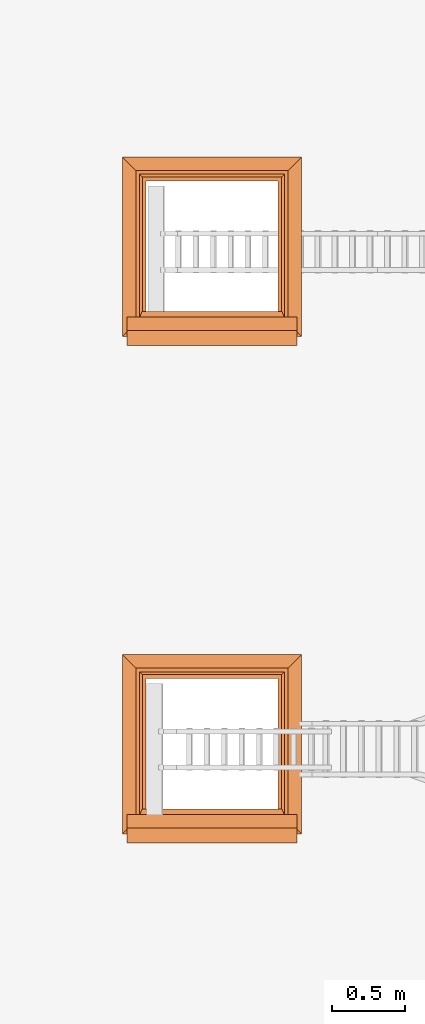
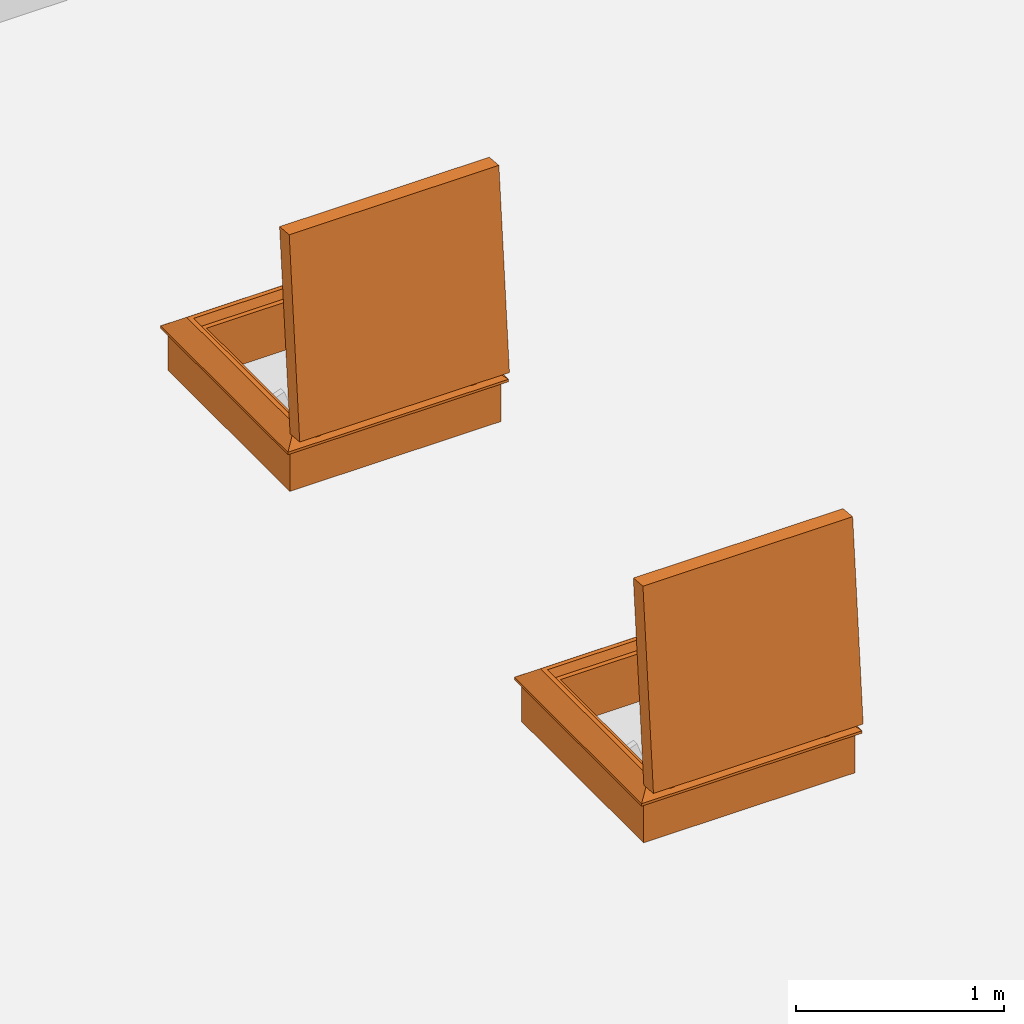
# One storey, part 27 of 28: 2 proxies.
"""IFC2X3 building model written with IfcOpenShell, lengths in millimetres."""

from ifc_helpers import new_model, entity, si_unit, converted_unit, derived_unit, direction, frame, origin, place, context, subcontext, project, spatial, faceted_brep, source, transform, mapped, type_object, type_shapes, element, save


model = new_model("IFC2X3")

# Units and contexts
model_context = context("Model", 3, precision=0.01, world=origin(), true_north=direction((6.12303176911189e-17, 1.0)))
body_context = subcontext(model_context, "Body", "Model", "MODEL_VIEW")
ifc_project = project(units=[si_unit("LENGTHUNIT", "METRE", prefix="MILLI"), si_unit("AREAUNIT", "SQUARE_METRE"), si_unit("VOLUMEUNIT", "CUBIC_METRE"), converted_unit("PLANEANGLEUNIT", "DEGREE", entity("IfcRatioMeasure", 0.0174532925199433), si_unit("PLANEANGLEUNIT", "RADIAN"), dimensions=[0, 0, 0, 0, 0, 0, 0]), si_unit("MASSUNIT", "GRAM", prefix="KILO"), derived_unit("MASSDENSITYUNIT", [(si_unit("MASSUNIT", "GRAM", prefix="KILO"), 1), (si_unit("LENGTHUNIT", "METRE"), -3)]), si_unit("TIMEUNIT", "SECOND"), si_unit("FREQUENCYUNIT", "HERTZ"), si_unit("THERMODYNAMICTEMPERATUREUNIT", "DEGREE_CELSIUS"), derived_unit("THERMALTRANSMITTANCEUNIT", [(si_unit("MASSUNIT", "GRAM", prefix="KILO"), 1), (si_unit("THERMODYNAMICTEMPERATUREUNIT", "KELVIN"), -1), (si_unit("TIMEUNIT", "SECOND"), -3)]), derived_unit("VOLUMETRICFLOWRATEUNIT", [(si_unit("LENGTHUNIT", "METRE"), 3), (si_unit("TIMEUNIT", "SECOND"), -1)]), si_unit("ELECTRICCURRENTUNIT", "AMPERE"), si_unit("ELECTRICVOLTAGEUNIT", "VOLT"), si_unit("POWERUNIT", "WATT"), si_unit("FORCEUNIT", "NEWTON", prefix="KILO"), si_unit("ILLUMINANCEUNIT", "LUX"), si_unit("LUMINOUSFLUXUNIT", "LUMEN"), si_unit("LUMINOUSINTENSITYUNIT", "CANDELA"), derived_unit("USERDEFINED", [(si_unit("MASSUNIT", "GRAM", prefix="KILO"), -1), (si_unit("LENGTHUNIT", "METRE"), -2), (si_unit("TIMEUNIT", "SECOND"), 3), (si_unit("LUMINOUSFLUXUNIT", "LUMEN"), 1)]), derived_unit("LINEARVELOCITYUNIT", [(si_unit("LENGTHUNIT", "METRE"), 1), (si_unit("TIMEUNIT", "SECOND"), -1)]), si_unit("PRESSUREUNIT", "PASCAL"), derived_unit("USERDEFINED", [(si_unit("LENGTHUNIT", "METRE"), -2), (si_unit("MASSUNIT", "GRAM", prefix="KILO"), 1), (si_unit("TIMEUNIT", "SECOND"), -2)])], contexts=[model_context])

# Site, building, storey
site_placement = place(None, origin())
site = spatial("IfcSite", under=ifc_project, at=site_placement, Name="Default", CompositionType="ELEMENT")
building_placement = place(site_placement, origin())
building = spatial("IfcBuilding", under=site, at=building_placement, CompositionType="ELEMENT")
storey_placement = place(building_placement, frame((0.0, 0.0, 4000.0)))
storey = spatial("IfcBuildingStorey", under=building, at=storey_placement, Name="Level 2", CompositionType="ELEMENT", Elevation=4000.0)

# Proxies
building_element_proxy_type_1 = type_object("IfcBuildingElementProxyType", Name="900 x 900 2part Stair", PredefinedType="NOTDEFINED")
shared_shape_1 = source(origin(), body_context, "Body", "Brep", [
    faceted_brep([(-1025.81180060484, -352.9006607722, 333.094802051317), (-1025.81180060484, -352.274840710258, 333.878753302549), (-1025.81180060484, -351.473721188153, 334.482440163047), (-1025.81180060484, -350.547639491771, 334.867930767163), (-1025.81180060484, -349.554784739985, 335.011003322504), (-1025.81180060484, -348.557541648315, 334.902668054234), (-1025.81180060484, -347.618570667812, 334.549732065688), (-1025.81180060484, -346.796870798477, 333.974371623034), (-1025.81180060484, -346.1440724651, 333.212738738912), (-1025.81180060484, -345.701193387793, 332.31268960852), (-1025.81180060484, -345.496061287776, 331.330777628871), (-1025.81180060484, -345.541565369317, 330.328699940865), (-1025.81180060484, -345.834846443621, 329.369420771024), (-1025.81180060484, -346.357476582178, 328.513215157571), (-1025.81180060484, -347.076617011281, 327.813881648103), (-1025.81180060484, -347.442865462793, 324.584309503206), (-1025.81180060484, -344.763632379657, 322.744205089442), (-1025.81180060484, -309.427027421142, 309.700701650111), (-1025.81180060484, -356.910862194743, 271.713633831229), (-1025.81180060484, -365.245617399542, 282.132077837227), (-1025.81180060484, -366.655242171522, 284.948025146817), (-1025.81180060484, -366.7901943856, 288.094195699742), (-1025.81180060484, -353.311858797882, 332.179844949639), (-998.815024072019, -365.245617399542, 282.132077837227), (-998.815024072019, -366.655242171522, 284.948025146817), (-998.815024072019, -366.7901943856, 288.094195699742), (-998.815024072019, -353.311858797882, 332.179844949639), (-998.815024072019, -352.9006607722, 333.094802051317), (-998.815024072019, -352.274840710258, 333.878753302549), (-998.815024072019, -351.473721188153, 334.482440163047), (-998.815024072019, -349.554784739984, 335.011003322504), (-998.815024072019, -348.557541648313, 334.902668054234), (-998.815024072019, -350.54763949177, 334.867930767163), (-998.815024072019, -347.618570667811, 334.549732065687), (-998.815024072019, -346.796870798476, 333.974371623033), (-998.815024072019, -345.701193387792, 332.312689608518), (-998.815024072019, -346.1440724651, 333.21273873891), (-998.815024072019, -345.496061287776, 331.330777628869), (-998.815024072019, -345.834846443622, 329.369420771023), (-998.815024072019, -346.357476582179, 328.51321515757), (-998.815024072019, -345.541565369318, 330.328699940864), (-998.815024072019, -347.076617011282, 327.813881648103), (-998.815024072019, -347.442865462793, 324.584309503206), (-998.815024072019, -344.763632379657, 322.744205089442), (-998.815024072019, -309.427027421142, 309.700701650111), (-998.815024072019, -356.910862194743, 271.713633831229)], [[[0, 1, 2, 3, 4, 5, 6, 7, 8, 9, 10, 11, 12, 13, 14, 15, 16, 17, 18, 19, 20, 21, 22]], [[19, 23, 24, 20]], [[24, 25, 21, 20]], [[22, 21, 25, 26]], [[1, 0, 27, 28]], [[27, 0, 22, 26]], [[29, 2, 1, 28]], [[30, 31, 5, 4]], [[4, 3, 32, 30]], [[32, 3, 2, 29]], [[31, 33, 6, 5]], [[33, 34, 7, 6]], [[35, 9, 8, 36]], [[36, 8, 7, 34]], [[10, 9, 35, 37]], [[13, 12, 38, 39]], [[12, 11, 40, 38]], [[40, 11, 10, 37]], [[41, 14, 13, 39]], [[41, 42, 15, 14]], [[43, 16, 15, 42]], [[17, 16, 43, 44]], [[18, 17, 44, 45]], [[19, 18, 45, 23]], [[45, 44, 43, 42, 41, 39, 38, 40, 37, 35, 36, 34, 33, 31, 30, 32, 29, 28, 27, 26, 25, 24, 23]]]),
    faceted_brep([(-165.338675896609, -365.245617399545, 282.132077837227), (-165.338675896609, -356.910862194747, 271.713633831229), (-134.95889484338, -356.910862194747, 271.713633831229), (-134.95889484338, -365.245617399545, 282.132077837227), (-165.338675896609, -309.427027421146, 309.700701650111), (-134.958894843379, -309.427027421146, 309.700701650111), (-165.338675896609, -344.763632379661, 322.744205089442), (-134.95889484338, -344.763632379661, 322.744205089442), (-134.95889484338, -347.076617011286, 327.813881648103), (-134.95889484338, -347.442865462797, 324.584309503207), (-165.338675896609, -347.442865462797, 324.584309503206), (-165.338675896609, -347.076617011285, 327.813881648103), (-134.95889484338, -352.900660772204, 333.094802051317), (-165.338675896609, -352.900660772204, 333.094802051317), (-165.338675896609, -353.311858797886, 332.179844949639), (-134.95889484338, -353.311858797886, 332.179844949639), (-165.338675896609, -352.274840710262, 333.878753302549), (-134.95889484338, -352.274840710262, 333.878753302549), (-134.95889484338, -351.473721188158, 334.482440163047), (-165.338675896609, -351.473721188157, 334.482440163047), (-165.338675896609, -349.554784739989, 335.011003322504), (-165.338675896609, -350.547639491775, 334.867930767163), (-134.95889484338, -350.547639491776, 334.867930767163), (-134.95889484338, -349.554784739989, 335.011003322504), (-134.95889484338, -348.557541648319, 334.902668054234), (-165.338675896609, -348.557541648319, 334.902668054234), (-134.95889484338, -347.618570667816, 334.549732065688), (-165.338675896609, -347.618570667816, 334.549732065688), (-134.95889484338, -346.796870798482, 333.974371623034), (-165.338675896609, -346.796870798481, 333.974371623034), (-134.95889484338, -346.144072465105, 333.212738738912), (-165.338675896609, -346.144072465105, 333.212738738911), (-165.338675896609, -345.701193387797, 332.31268960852), (-134.95889484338, -345.701193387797, 332.31268960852), (-134.95889484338, -345.49606128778, 331.330777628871), (-165.338675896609, -345.49606128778, 331.330777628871), (-165.338675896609, -345.834846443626, 329.369420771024), (-165.338675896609, -345.541565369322, 330.328699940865), (-134.95889484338, -345.541565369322, 330.328699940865), (-134.95889484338, -345.834846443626, 329.369420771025), (-134.95889484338, -346.357476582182, 328.513215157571), (-165.338675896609, -346.357476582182, 328.513215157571), (-165.338675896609, -366.790194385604, 288.094195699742), (-134.95889484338, -366.790194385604, 288.094195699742), (-134.95889484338, -366.655242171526, 284.948025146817), (-165.338675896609, -366.655242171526, 284.948025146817)], [[[0, 1, 2, 3]], [[1, 4, 5, 2]], [[4, 6, 7, 5]], [[8, 9, 10, 11]], [[7, 6, 10, 9]], [[12, 13, 14, 15]], [[16, 13, 12, 17]], [[17, 18, 19, 16]], [[20, 21, 22, 23]], [[23, 24, 25, 20]], [[18, 22, 21, 19]], [[24, 26, 27, 25]], [[26, 28, 29, 27]], [[30, 31, 29, 28]], [[32, 31, 30, 33]], [[33, 34, 35, 32]], [[36, 37, 38, 39]], [[39, 40, 41, 36]], [[34, 38, 37, 35]], [[40, 8, 11, 41]], [[14, 42, 43, 15]], [[0, 3, 44, 45]], [[44, 43, 42, 45]], [[5, 7, 9, 8, 40, 39, 38, 34, 33, 30, 28, 26, 24, 23, 22, 18, 17, 12, 15, 43, 44, 3, 2]], [[36, 41, 11, 10, 6, 4, 1, 0, 45, 42, 14, 13, 16, 19, 21, 20, 25, 27, 29, 31, 32, 35, 37]]]),
    faceted_brep([(-61.2697623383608, 753.447095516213, 328.0), (30.7302376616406, 845.447095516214, 254.4), (-1193.26976233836, 845.447095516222, 254.4), (-1101.26976233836, 753.44709551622, 328.0), (-105.269762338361, 709.447095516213, 282.0), (-85.7439207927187, 728.972937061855, 328.0), (-1076.795603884, 728.972937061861, 328.0), (-1057.26976233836, 709.447095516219, 282.0), (-131.26976233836, 683.447095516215, 0.0), (-131.26976233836, 683.447095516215, 282.0), (-1031.26976233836, 683.447095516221, 282.0), (-1031.26976233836, 683.447095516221, 0.0), (4.73023766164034, 819.447095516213, 240.0), (4.73023766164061, 819.447095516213, 0.0), (-1167.26976233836, 819.447095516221, 0.0), (-1167.26976233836, 819.44709551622, 240.0), (30.7302376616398, 845.447095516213, 240.0), (-1193.26976233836, 845.447095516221, 240.0), (-1193.26976233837, -378.552904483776, 254.4), (-1101.26976233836, -286.552904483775, 328.0), (-1076.79560388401, -262.078746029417, 328.0), (-1057.26976233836, -242.552904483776, 282.0), (-1031.26976233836, -216.552904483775, 282.0), (-1031.26976233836, -216.552904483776, 0.0), (-1167.26976233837, -352.552904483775, 0.0), (-1167.26976233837, -352.552904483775, 240.0), (-1193.26976233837, -378.552904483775, 240.0), (30.7302376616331, -378.552904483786, 254.4), (-61.2697623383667, -286.552904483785, 328.0), (-85.7439207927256, -262.078746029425, 328.0), (-105.269762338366, -242.552904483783, 282.0), (-131.269762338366, -216.552904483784, 282.0), (-131.269762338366, -216.552904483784, 0.0), (4.73023766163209, -352.552904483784, 0.0), (4.73023766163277, -352.552904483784, 240.0), (30.730237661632, -378.552904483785, 240.0)], [[[0, 1, 2, 3]], [[4, 5, 6, 7]], [[8, 9, 10, 11]], [[12, 13, 14, 15]], [[1, 16, 17, 2]], [[3, 2, 18, 19]], [[7, 6, 20, 21]], [[11, 10, 22, 23]], [[15, 14, 24, 25]], [[2, 17, 26, 18]], [[19, 18, 27, 28]], [[21, 20, 29, 30]], [[23, 22, 31, 32]], [[25, 24, 33, 34]], [[18, 26, 35, 27]], [[28, 27, 1, 0]], [[3, 19, 28, 0], [5, 29, 20, 6]], [[30, 29, 5, 4]], [[7, 21, 30, 4], [9, 31, 22, 10]], [[32, 31, 9, 8]], [[11, 23, 32, 8], [13, 33, 24, 14]], [[34, 33, 13, 12]], [[15, 25, 34, 12], [16, 35, 26, 17]], [[27, 35, 16, 1]]], outer=[[True], [True], [True], [True], [True], [True], [True], [True], [True], [True], [True], [True], [True], [True], [True], [True], [True, False], [True], [True, False], [True], [False, True], [True], [False, True], [True]]),
    faceted_brep([(-1033.97259076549, -350.291018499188, 1367.58602311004), (-1033.97259076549, -428.81834271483, 470.014600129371), (-128.272590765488, -428.81834271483, 470.014600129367), (-128.272590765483, -350.291018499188, 1367.58602311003), (-1033.97259076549, -211.421477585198, 1355.43651257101), (-128.272590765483, -211.421477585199, 1355.43651257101), (-128.272590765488, -289.94880180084, 457.865089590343), (-1033.97259076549, -289.94880180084, 457.865089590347)], [[[0, 1, 2, 3]], [[4, 5, 6, 7]], [[1, 0, 4, 7]], [[2, 1, 7, 6]], [[3, 2, 6, 5]], [[0, 3, 5, 4]]]),
    faceted_brep([(-128.272590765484, -211.421477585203, 1355.43651257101), (-128.272590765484, -350.291018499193, 1367.58602311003), (-1033.97259076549, -350.291018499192, 1367.58602311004), (-1033.97259076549, -211.421477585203, 1355.43651257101), (-85.2725907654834, -253.897214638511, 1402.31691105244), (-102.872590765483, -209.207721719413, 1380.73985790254), (-1059.37259076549, -209.207721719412, 1380.73985790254), (-1076.97259076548, -253.897214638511, 1402.31691105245), (0.727409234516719, -339.047927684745, 1496.09513916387), (0.727409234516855, -246.401820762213, 1487.98965508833), (-1162.97259076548, -246.401820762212, 1487.98965508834), (-1162.97259076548, -339.047927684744, 1496.09513916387), (-1033.97259076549, -428.818342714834, 470.014600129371), (-1033.97259076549, -289.948801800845, 457.865089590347), (-1059.37259076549, -292.162557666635, 432.561744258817), (-1076.97259076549, -339.919932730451, 419.072744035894), (-1162.97259076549, -347.41532660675, 333.400000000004), (-1162.97259076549, -440.061433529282, 341.505484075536), (-128.27259076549, -428.818342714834, 470.014600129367), (-128.272590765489, -289.948801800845, 457.865089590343), (-102.872590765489, -292.162557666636, 432.561744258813), (-85.2725907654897, -339.919932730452, 419.072744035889), (0.727409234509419, -347.41532660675, 333.399999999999), (0.727409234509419, -440.061433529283, 341.505484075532)], [[[0, 1, 2, 3]], [[4, 5, 6, 7]], [[8, 9, 10, 11]], [[3, 2, 12, 13]], [[7, 6, 14, 15]], [[11, 10, 16, 17]], [[13, 12, 18, 19]], [[15, 14, 20, 21]], [[17, 16, 22, 23]], [[19, 18, 1, 0]], [[3, 13, 19, 0], [5, 20, 14, 6]], [[21, 20, 5, 4]], [[7, 15, 21, 4], [9, 22, 16, 10]], [[23, 22, 9, 8]], [[1, 18, 12, 2], [11, 17, 23, 8]]], outer=[[True], [True], [True], [True], [True], [True], [True], [True], [True], [True], [False, True], [True], [False, True], [True], [False, True]]),
])
type_shapes(building_element_proxy_type_1, [shared_shape_1])
proxy_1_placement = place(storey_placement, frame((8335.61306223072, 5640.33582063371, 400.0)))
element("IfcBuildingElementProxy", 1, at=proxy_1_placement, inside=storey, type_object=building_element_proxy_type_1, Name="2_Topaccess_dakluik_900x900_Staka:900 x 900 2part Stair", ObjectType="900 x 900 2part Stair", context=body_context, shape_type="MappedRepresentation", body=[
    mapped(shared_shape_1, transform((0.0, 0.0, 0.0), scale=1.0)),
])
building_element_proxy_type_2 = type_object("IfcBuildingElementProxyType", Name="900 x 900 3part Stair", PredefinedType="NOTDEFINED")
shared_shape_2 = source(origin(), body_context, "Body", "Brep", [
    faceted_brep([(-1025.81180060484, -352.9006607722, 333.094802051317), (-1025.81180060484, -352.274840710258, 333.878753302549), (-1025.81180060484, -351.473721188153, 334.482440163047), (-1025.81180060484, -350.547639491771, 334.867930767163), (-1025.81180060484, -349.554784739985, 335.011003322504), (-1025.81180060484, -348.557541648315, 334.902668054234), (-1025.81180060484, -347.618570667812, 334.549732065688), (-1025.81180060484, -346.796870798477, 333.974371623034), (-1025.81180060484, -346.1440724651, 333.212738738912), (-1025.81180060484, -345.701193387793, 332.31268960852), (-1025.81180060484, -345.496061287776, 331.330777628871), (-1025.81180060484, -345.541565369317, 330.328699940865), (-1025.81180060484, -345.834846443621, 329.369420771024), (-1025.81180060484, -346.357476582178, 328.513215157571), (-1025.81180060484, -347.076617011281, 327.813881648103), (-1025.81180060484, -347.442865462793, 324.584309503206), (-1025.81180060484, -344.763632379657, 322.744205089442), (-1025.81180060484, -309.427027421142, 309.700701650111), (-1025.81180060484, -356.910862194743, 271.713633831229), (-1025.81180060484, -365.245617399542, 282.132077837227), (-1025.81180060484, -366.655242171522, 284.948025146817), (-1025.81180060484, -366.7901943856, 288.094195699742), (-1025.81180060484, -353.311858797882, 332.179844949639), (-998.815024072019, -365.245617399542, 282.132077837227), (-998.815024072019, -366.655242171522, 284.948025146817), (-998.815024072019, -366.7901943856, 288.094195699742), (-998.815024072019, -353.311858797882, 332.179844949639), (-998.815024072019, -352.9006607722, 333.094802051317), (-998.815024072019, -352.274840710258, 333.878753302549), (-998.815024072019, -351.473721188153, 334.482440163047), (-998.815024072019, -349.554784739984, 335.011003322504), (-998.815024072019, -348.557541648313, 334.902668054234), (-998.815024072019, -350.54763949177, 334.867930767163), (-998.815024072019, -347.618570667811, 334.549732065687), (-998.815024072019, -346.796870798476, 333.974371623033), (-998.815024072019, -345.701193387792, 332.312689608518), (-998.815024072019, -346.1440724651, 333.21273873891), (-998.815024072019, -345.496061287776, 331.330777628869), (-998.815024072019, -345.834846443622, 329.369420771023), (-998.815024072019, -346.357476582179, 328.51321515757), (-998.815024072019, -345.541565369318, 330.328699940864), (-998.815024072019, -347.076617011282, 327.813881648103), (-998.815024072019, -347.442865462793, 324.584309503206), (-998.815024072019, -344.763632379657, 322.744205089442), (-998.815024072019, -309.427027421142, 309.700701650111), (-998.815024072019, -356.910862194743, 271.713633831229)], [[[0, 1, 2, 3, 4, 5, 6, 7, 8, 9, 10, 11, 12, 13, 14, 15, 16, 17, 18, 19, 20, 21, 22]], [[19, 23, 24, 20]], [[24, 25, 21, 20]], [[22, 21, 25, 26]], [[1, 0, 27, 28]], [[27, 0, 22, 26]], [[29, 2, 1, 28]], [[30, 31, 5, 4]], [[4, 3, 32, 30]], [[32, 3, 2, 29]], [[31, 33, 6, 5]], [[33, 34, 7, 6]], [[35, 9, 8, 36]], [[36, 8, 7, 34]], [[10, 9, 35, 37]], [[13, 12, 38, 39]], [[12, 11, 40, 38]], [[40, 11, 10, 37]], [[41, 14, 13, 39]], [[41, 42, 15, 14]], [[43, 16, 15, 42]], [[17, 16, 43, 44]], [[18, 17, 44, 45]], [[19, 18, 45, 23]], [[45, 44, 43, 42, 41, 39, 38, 40, 37, 35, 36, 34, 33, 31, 30, 32, 29, 28, 27, 26, 25, 24, 23]]]),
    faceted_brep([(-165.338675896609, -365.245617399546, 282.132077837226), (-134.95889484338, -365.245617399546, 282.132077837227), (-134.95889484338, -366.655242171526, 284.948025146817), (-165.338675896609, -366.655242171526, 284.948025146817), (-134.95889484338, -366.790194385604, 288.094195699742), (-165.338675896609, -366.790194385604, 288.094195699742), (-165.338675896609, -353.311858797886, 332.179844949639), (-134.95889484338, -353.311858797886, 332.179844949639), (-134.95889484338, -352.900660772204, 333.094802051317), (-165.338675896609, -352.900660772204, 333.094802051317), (-165.338675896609, -352.274840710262, 333.878753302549), (-134.95889484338, -352.274840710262, 333.878753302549), (-134.95889484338, -351.473721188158, 334.482440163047), (-165.338675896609, -351.473721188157, 334.482440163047), (-165.338675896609, -349.554784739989, 335.011003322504), (-165.338675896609, -350.547639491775, 334.867930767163), (-134.95889484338, -350.547639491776, 334.867930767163), (-134.95889484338, -349.554784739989, 335.011003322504), (-134.95889484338, -348.557541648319, 334.902668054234), (-165.338675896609, -348.557541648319, 334.902668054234), (-134.95889484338, -347.618570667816, 334.549732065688), (-165.338675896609, -347.618570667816, 334.549732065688), (-134.95889484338, -346.796870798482, 333.974371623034), (-165.338675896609, -346.796870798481, 333.974371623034), (-134.95889484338, -346.144072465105, 333.212738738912), (-165.338675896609, -346.144072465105, 333.212738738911), (-165.338675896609, -345.701193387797, 332.31268960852), (-134.95889484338, -345.701193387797, 332.31268960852), (-134.95889484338, -345.49606128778, 331.330777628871), (-165.338675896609, -345.49606128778, 331.330777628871), (-165.338675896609, -345.834846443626, 329.369420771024), (-165.338675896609, -345.541565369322, 330.328699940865), (-134.95889484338, -345.541565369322, 330.328699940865), (-134.95889484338, -345.834846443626, 329.369420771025), (-134.95889484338, -346.357476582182, 328.513215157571), (-165.338675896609, -346.357476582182, 328.513215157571), (-134.95889484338, -347.076617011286, 327.813881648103), (-165.338675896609, -347.076617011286, 327.813881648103), (-134.95889484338, -347.442865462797, 324.584309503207), (-165.338675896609, -347.442865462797, 324.584309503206), (-134.95889484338, -344.763632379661, 322.744205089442), (-165.338675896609, -344.763632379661, 322.744205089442), (-165.338675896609, -309.427027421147, 309.700701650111), (-134.95889484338, -309.427027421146, 309.700701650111), (-165.338675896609, -356.910862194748, 271.713633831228), (-134.95889484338, -356.910862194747, 271.713633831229)], [[[0, 1, 2, 3]], [[2, 4, 5, 3]], [[6, 5, 4, 7]], [[8, 9, 6, 7]], [[10, 9, 8, 11]], [[11, 12, 13, 10]], [[14, 15, 16, 17]], [[17, 18, 19, 14]], [[12, 16, 15, 13]], [[18, 20, 21, 19]], [[20, 22, 23, 21]], [[24, 25, 23, 22]], [[26, 25, 24, 27]], [[27, 28, 29, 26]], [[30, 31, 32, 33]], [[33, 34, 35, 30]], [[28, 32, 31, 29]], [[34, 36, 37, 35]], [[36, 38, 39, 37]], [[40, 41, 39, 38]], [[42, 41, 40, 43]], [[44, 42, 43, 45]], [[0, 44, 45, 1]], [[43, 40, 38, 36, 34, 33, 32, 28, 27, 24, 22, 20, 18, 17, 16, 12, 11, 8, 7, 4, 2, 1, 45]], [[30, 35, 37, 39, 41, 42, 44, 0, 3, 5, 6, 9, 10, 13, 15, 14, 19, 21, 23, 25, 26, 29, 31]]]),
    faceted_brep([(-61.2697623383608, 753.447095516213, 328.0), (30.7302376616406, 845.447095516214, 254.4), (-1193.26976233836, 845.447095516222, 254.4), (-1101.26976233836, 753.44709551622, 328.0), (-105.269762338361, 709.447095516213, 282.0), (-85.7439207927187, 728.972937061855, 328.0), (-1076.795603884, 728.972937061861, 328.0), (-1057.26976233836, 709.447095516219, 282.0), (-131.26976233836, 683.447095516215, 0.0), (-131.26976233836, 683.447095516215, 282.0), (-1031.26976233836, 683.447095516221, 282.0), (-1031.26976233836, 683.447095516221, 0.0), (4.73023766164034, 819.447095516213, 240.0), (4.73023766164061, 819.447095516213, 0.0), (-1167.26976233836, 819.447095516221, 0.0), (-1167.26976233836, 819.44709551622, 240.0), (30.7302376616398, 845.447095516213, 240.0), (-1193.26976233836, 845.447095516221, 240.0), (-1193.26976233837, -378.552904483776, 254.4), (-1101.26976233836, -286.552904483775, 328.0), (-1076.79560388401, -262.078746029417, 328.0), (-1057.26976233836, -242.552904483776, 282.0), (-1031.26976233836, -216.552904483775, 282.0), (-1031.26976233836, -216.552904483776, 0.0), (-1167.26976233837, -352.552904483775, 0.0), (-1167.26976233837, -352.552904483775, 240.0), (-1193.26976233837, -378.552904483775, 240.0), (30.7302376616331, -378.552904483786, 254.4), (-61.2697623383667, -286.552904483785, 328.0), (-85.7439207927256, -262.078746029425, 328.0), (-105.269762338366, -242.552904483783, 282.0), (-131.269762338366, -216.552904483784, 282.0), (-131.269762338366, -216.552904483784, 0.0), (4.73023766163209, -352.552904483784, 0.0), (4.73023766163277, -352.552904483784, 240.0), (30.730237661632, -378.552904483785, 240.0)], [[[0, 1, 2, 3]], [[4, 5, 6, 7]], [[8, 9, 10, 11]], [[12, 13, 14, 15]], [[1, 16, 17, 2]], [[3, 2, 18, 19]], [[7, 6, 20, 21]], [[11, 10, 22, 23]], [[15, 14, 24, 25]], [[2, 17, 26, 18]], [[19, 18, 27, 28]], [[21, 20, 29, 30]], [[23, 22, 31, 32]], [[25, 24, 33, 34]], [[18, 26, 35, 27]], [[28, 27, 1, 0]], [[3, 19, 28, 0], [5, 29, 20, 6]], [[30, 29, 5, 4]], [[7, 21, 30, 4], [9, 31, 22, 10]], [[32, 31, 9, 8]], [[11, 23, 32, 8], [13, 33, 24, 14]], [[34, 33, 13, 12]], [[15, 25, 34, 12], [16, 35, 26, 17]], [[27, 35, 16, 1]]], outer=[[True], [True], [True], [True], [True], [True], [True], [True], [True], [True], [True], [True], [True], [True], [True], [True], [True, False], [True], [True, False], [True], [False, True], [True], [False, True], [True]]),
    faceted_brep([(-1033.97259076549, -350.291018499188, 1367.58602311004), (-1033.97259076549, -428.81834271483, 470.014600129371), (-128.272590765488, -428.81834271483, 470.014600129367), (-128.272590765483, -350.291018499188, 1367.58602311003), (-1033.97259076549, -211.421477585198, 1355.43651257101), (-128.272590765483, -211.421477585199, 1355.43651257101), (-128.272590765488, -289.94880180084, 457.865089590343), (-1033.97259076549, -289.94880180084, 457.865089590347)], [[[0, 1, 2, 3]], [[4, 5, 6, 7]], [[1, 0, 4, 7]], [[2, 1, 7, 6]], [[3, 2, 6, 5]], [[0, 3, 5, 4]]]),
    faceted_brep([(-128.272590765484, -211.421477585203, 1355.43651257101), (-128.272590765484, -350.291018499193, 1367.58602311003), (-1033.97259076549, -350.291018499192, 1367.58602311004), (-1033.97259076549, -211.421477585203, 1355.43651257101), (-85.2725907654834, -253.897214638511, 1402.31691105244), (-102.872590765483, -209.207721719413, 1380.73985790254), (-1059.37259076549, -209.207721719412, 1380.73985790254), (-1076.97259076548, -253.897214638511, 1402.31691105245), (0.727409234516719, -339.047927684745, 1496.09513916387), (0.727409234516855, -246.401820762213, 1487.98965508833), (-1162.97259076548, -246.401820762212, 1487.98965508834), (-1162.97259076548, -339.047927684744, 1496.09513916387), (-1033.97259076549, -428.818342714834, 470.014600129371), (-1033.97259076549, -289.948801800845, 457.865089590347), (-1059.37259076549, -292.162557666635, 432.561744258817), (-1076.97259076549, -339.919932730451, 419.072744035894), (-1162.97259076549, -347.41532660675, 333.400000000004), (-1162.97259076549, -440.061433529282, 341.505484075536), (-128.27259076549, -428.818342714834, 470.014600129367), (-128.272590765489, -289.948801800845, 457.865089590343), (-102.872590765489, -292.162557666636, 432.561744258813), (-85.2725907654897, -339.919932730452, 419.072744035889), (0.727409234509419, -347.41532660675, 333.399999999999), (0.727409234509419, -440.061433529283, 341.505484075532)], [[[0, 1, 2, 3]], [[4, 5, 6, 7]], [[8, 9, 10, 11]], [[3, 2, 12, 13]], [[7, 6, 14, 15]], [[11, 10, 16, 17]], [[13, 12, 18, 19]], [[15, 14, 20, 21]], [[17, 16, 22, 23]], [[19, 18, 1, 0]], [[3, 13, 19, 0], [5, 20, 14, 6]], [[21, 20, 5, 4]], [[7, 15, 21, 4], [9, 22, 16, 10]], [[23, 22, 9, 8]], [[1, 18, 12, 2], [11, 17, 23, 8]]], outer=[[True], [True], [True], [True], [True], [True], [True], [True], [True], [True], [False, True], [True], [False, True], [True], [False, True]]),
])
type_shapes(building_element_proxy_type_2, [shared_shape_2])
proxy_2_placement = place(storey_placement, frame((8335.61306223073, 9040.33582063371, 400.0)))
element("IfcBuildingElementProxy", 2, at=proxy_2_placement, inside=storey, type_object=building_element_proxy_type_2, Name="2_Topaccess_dakluik_900x900_Staka:900 x 900 3part Stair", ObjectType="900 x 900 3part Stair", context=body_context, shape_type="MappedRepresentation", body=[
    mapped(shared_shape_2, transform((0.0, 0.0, 0.0), scale=1.0)),
])

save(model, "model.ifc")
